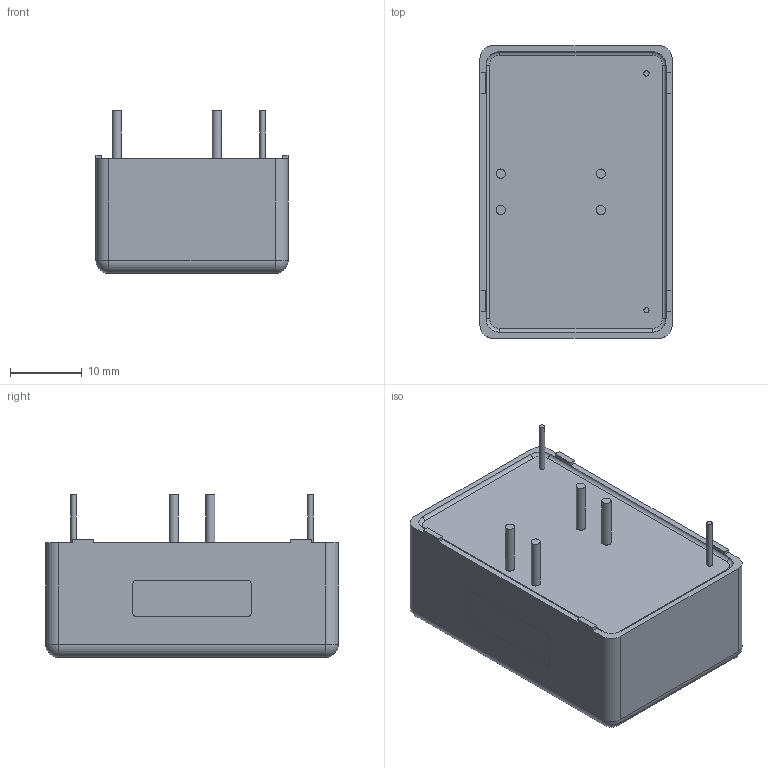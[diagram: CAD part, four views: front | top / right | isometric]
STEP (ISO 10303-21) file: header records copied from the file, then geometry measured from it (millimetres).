
FILE_DESCRIPTION(/* description */ ('Alibre Inc.'),/* implementation_level */ '2;1');
FILE_NAME(/* name */ 'export-77DB1E1F-6102-4B9B-84D2-42A33CC492D2',/* time_stamp */ '2020-11-04T08:59:07+01:00',/* author */ (''),/* organization */ (''),/* preprocessor_version */ 'ST-DEVELOPER v17',/* originating_system */ 'Alibre',/* authorisation */ '');
FILE_SCHEMA (('AUTOMOTIVE_DESIGN'));
Length unit declared in the file: millimetre
Bounding box: 26.8 x 40.8 x 22.7 mm (x, y, z)
Volume: 2658.9 mm3; surface area: 8163.1 mm2
Topology: 1 solids, 2 shells, 346 faces, 917 edges, 607 vertices
Faces by surface type: plane 282, cylinder 39, bspline 13, torus 8, sphere 4
Full cylindrical faces by diameter (mm): 0.73 x4, 0.908 x1, 0.92 x1, 1.29 x8, 1.3 x1
Entity records: 10707 total; most frequent: CARTESIAN_POINT 2623, ORIENTED_EDGE 1766, DIRECTION 1298, EDGE_CURVE 883, VECTOR 763, LINE 763, VERTEX_POINT 592, AXIS2_PLACEMENT_3D 408
